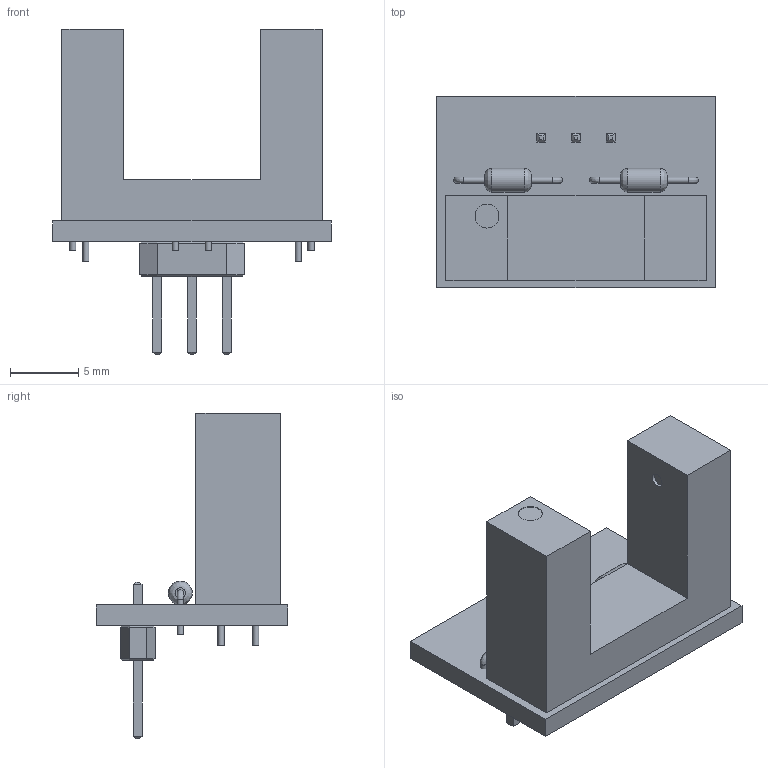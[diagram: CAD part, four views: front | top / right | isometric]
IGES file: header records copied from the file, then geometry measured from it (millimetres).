
Global section: file name: No Iges File Name specified; native system: AutoDesk Inventor R6.0; preprocessor: AutoDesk Inventor Iges Exporter R6.0; author: No Author specified; organization: No Organization specified; date: 20081220.163230; units: inch
Bounding box: 20.32 x 13.97 x 23.78 mm (x, y, z)
Surface area: 1763.4 mm2 (no closed solid volume)
Topology: 0 solids, 0 shells, 136 faces, 525 edges, 500 vertices
Faces by surface type: plane 105, bspline 20, revolution 11
